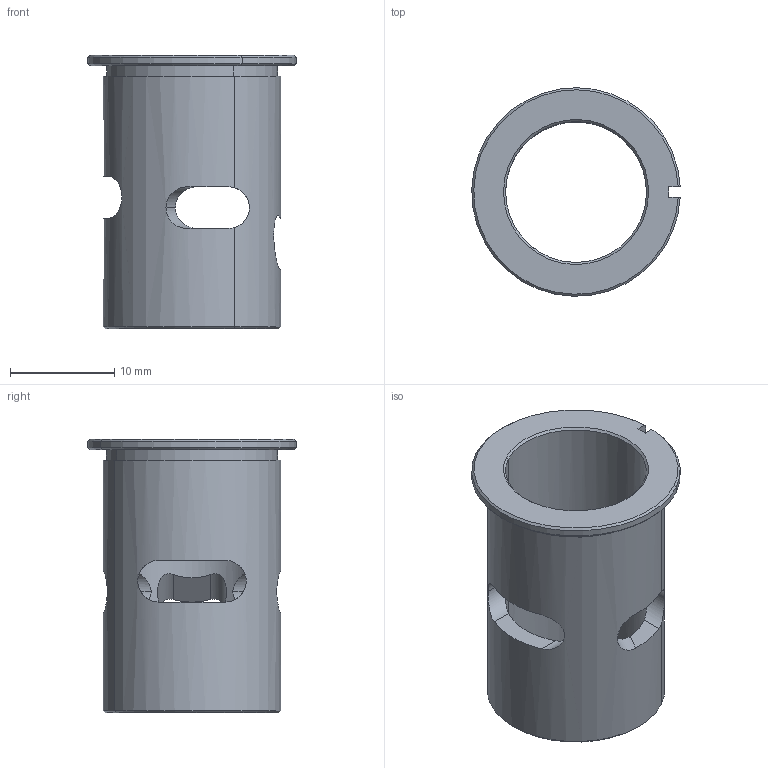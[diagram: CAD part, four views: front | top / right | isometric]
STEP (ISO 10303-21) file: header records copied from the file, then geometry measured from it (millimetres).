
FILE_DESCRIPTION(('CATIA V5 STEP'),'2;1');
FILE_NAME('C:\CADPool\catdb\Motor\214extra\Zylinder.stp','2005-10-28T08:27:59+00:00',('none'),('none'),'CATIA Version 5','CATIA V5 STEP AP214','none');
FILE_SCHEMA(('AUTOMOTIVE_DESIGN { 1 0 10303 214 1 1 1 1 }'));
Length unit declared in the file: millimetre
Products named in the file (1): Zylinder
Bounding box: 19.98 x 20 x 26.2 mm (x, y, z)
Volume: 2013.4 mm3; surface area: 2760.7 mm2
Topology: 1 solids, 1 shells, 51 faces, 141 edges, 92 vertices
Faces by surface type: cylinder 24, plane 15, cone 12
Entity records: 1789 total; most frequent: CARTESIAN_POINT 585, ORIENTED_EDGE 282, DIRECTION 173, EDGE_CURVE 141, VERTEX_POINT 92, AXIS2_PLACEMENT_3D 82, EDGE_LOOP 61, VECTOR 55
